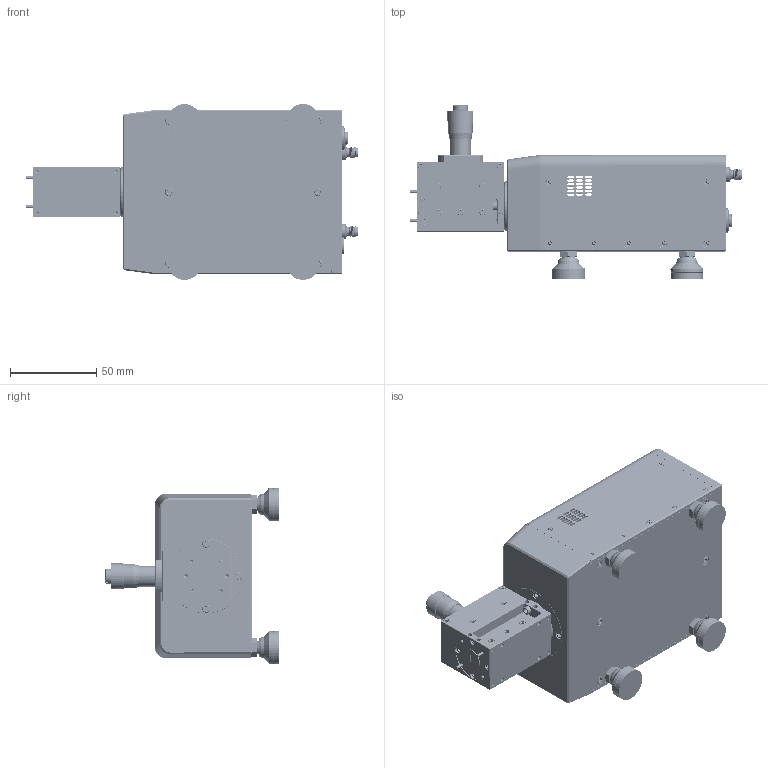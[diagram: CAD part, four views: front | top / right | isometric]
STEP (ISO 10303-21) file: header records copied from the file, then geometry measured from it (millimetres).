
FILE_DESCRIPTION (( 'STEP AP214' ), '1' );
FILE_NAME ('TO-RU-A.STEP', '2024-10-31T22:10:19', ( '' ), ( '' ), 'SwSTEP 2.0', 'SolidWorks 2021', '' );
FILE_SCHEMA (( 'AUTOMOTIVE_DESIGN' ));
Length unit declared in the file: inch
Products named in the file (1): TO-RU-A
Bounding box: 192.27 x 101.02 x 101.9 mm (x, y, z)
Volume: 303694.9 mm3; surface area: 163044.1 mm2
Topology: 108 solids, 110 shells, 7224 faces, 19200 edges, 12238 vertices
Faces by surface type: cylinder 4256, plane 1417, cone 1174, bspline 322, sphere 37, torus 18
Entity records: 463852 total; most frequent: CARTESIAN_POINT 211488, ORIENTED_EDGE 37914, DIRECTION 27971, EDGE_CURVE 18957, VERTEX_POINT 12208, AXIS2_PLACEMENT_3D 10409, EDGE_LOOP 7779, DIMENSIONAL_EXPONENTS 7330
